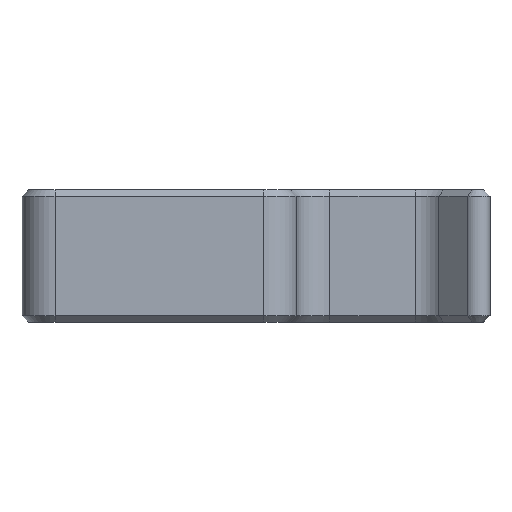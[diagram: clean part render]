
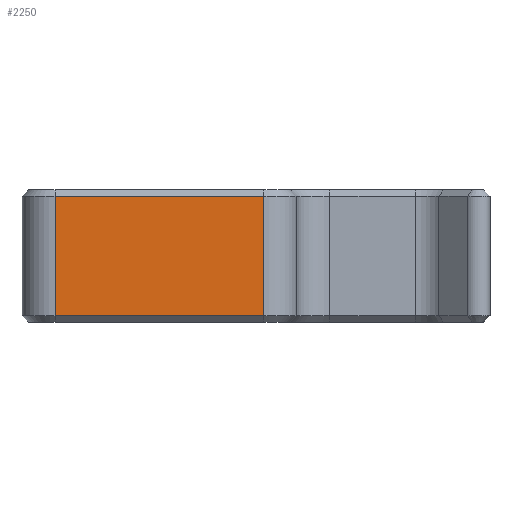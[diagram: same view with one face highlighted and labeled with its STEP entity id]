
A CAD part, left-side view. The second image highlights one B-rep face of the part: STEP entity #2250.
In plain terms, the highlighted planar face has unit normal (-1, 0, 0).
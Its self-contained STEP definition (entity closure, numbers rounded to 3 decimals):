
#336=ORIENTED_EDGE('',*,*,#1008,.T.);
#337=ORIENTED_EDGE('',*,*,#1009,.T.);
#338=ORIENTED_EDGE('',*,*,#1010,.T.);
#339=ORIENTED_EDGE('',*,*,#1011,.T.);
#1008=EDGE_CURVE('',#1344,#1345,#1488,.T.);
#1009=EDGE_CURVE('',#1345,#1346,#1489,.T.);
#1010=EDGE_CURVE('',#1346,#1347,#1490,.F.);
#1011=EDGE_CURVE('',#1347,#1344,#1491,.T.);
#1344=VERTEX_POINT('',#3685);
#1345=VERTEX_POINT('',#3686);
#1346=VERTEX_POINT('',#3688);
#1347=VERTEX_POINT('',#3690);
#1488=LINE('',#3684,#1726);
#1489=LINE('',#3687,#1727);
#1490=LINE('',#3689,#1728);
#1491=LINE('',#3691,#1729);
#1726=VECTOR('',#2872,1000.);
#1727=VECTOR('',#2873,1000.);
#1728=VECTOR('',#2874,1000.);
#1729=VECTOR('',#2875,1000.);
#1880=EDGE_LOOP('',(#336,#337,#338,#339));
#2030=FACE_BOUND('',#1880,.T.);
#2176=PLANE('',#2457);
#2250=ADVANCED_FACE('',(#2030),#2176,.T.);
#2457=AXIS2_PLACEMENT_3D('',#3683,#2870,#2871);
#2870=DIRECTION('',(-1.,0.,0.));
#2871=DIRECTION('',(0.,-1.,0.));
#2872=DIRECTION('',(0.,0.,-1.));
#2873=DIRECTION('',(0.,-1.,0.));
#2874=DIRECTION('',(0.,0.,-1.));
#2875=DIRECTION('',(0.,1.,0.));
#3683=CARTESIAN_POINT('',(-18.291,-38.805,20.));
#3684=CARTESIAN_POINT('',(-18.291,-2.305,20.));
#3685=CARTESIAN_POINT('',(-18.291,-2.305,19.));
#3686=CARTESIAN_POINT('',(-18.291,-2.305,1.));
#3687=CARTESIAN_POINT('',(-18.291,-38.805,1.));
#3688=CARTESIAN_POINT('',(-18.291,-33.805,1.));
#3689=CARTESIAN_POINT('',(-18.291,-33.805,20.));
#3690=CARTESIAN_POINT('',(-18.291,-33.805,19.));
#3691=CARTESIAN_POINT('',(-18.291,-2.305,19.));
